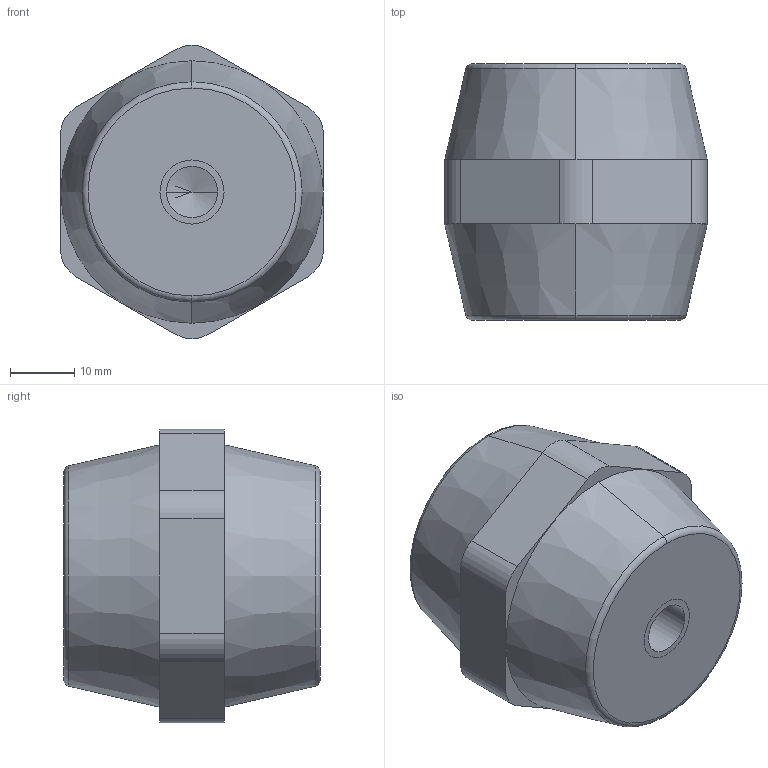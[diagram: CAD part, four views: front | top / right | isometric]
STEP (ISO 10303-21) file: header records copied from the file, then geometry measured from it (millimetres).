
FILE_DESCRIPTION (( 'STEP AP203' ), '1' );
FILE_NAME ('Isolatore 4054 41X40-M8.STEP', '2024-10-28T22:59:47', ( '' ), ( '' ), 'SwSTEP 2.0', 'SolidWorks 2020', '' );
FILE_SCHEMA (( 'CONFIG_CONTROL_DESIGN' ));
Length unit declared in the file: millimetre
Products named in the file (1): Isolatore 4054 41X40-M8
Bounding box: 41 x 40 x 45.8 mm (x, y, z)
Volume: 46794 mm3; surface area: 9319.1 mm2
Topology: 3 solids, 3 shells, 75 faces, 167 edges, 100 vertices
Faces by surface type: cylinder 35, plane 20, cone 16, torus 4
Entity records: 2088 total; most frequent: DIRECTION 393, CARTESIAN_POINT 331, ORIENTED_EDGE 310, AXIS2_PLACEMENT_3D 162, EDGE_CURVE 155, VERTEX_POINT 100, EDGE_LOOP 89, CIRCLE 86
